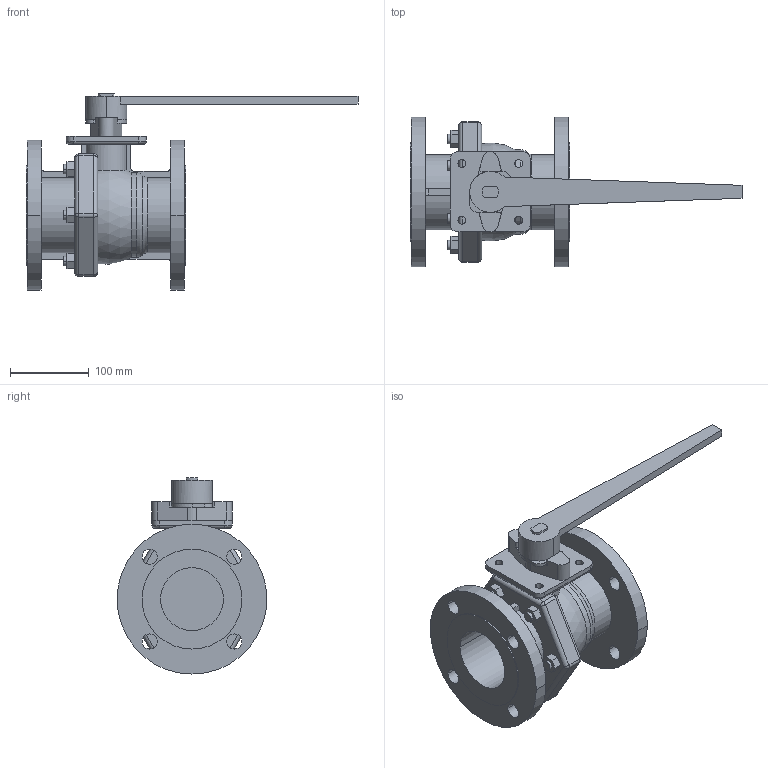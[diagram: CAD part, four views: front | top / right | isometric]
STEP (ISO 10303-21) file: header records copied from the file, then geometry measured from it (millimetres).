
FILE_DESCRIPTION( (''), '2;1');
FILE_NAME ('PC2091.16192.BLV-2SF ANSI150lb 80A_6453.stp','2026-05-28T09:09:42',(''),(''),'spGate 21.9.4 (****-****-****-****)','','');
FILE_SCHEMA (('AUTOMOTIVE_DESIGN'));
Length unit declared in the file: millimetre
Products named in the file (2): Assembly; BLV-2SFA 80A
Assembly tree (1 placements, depth 2):
  Assembly
    BLV-2SFA 80A
Bounding box: 422 x 190.5 x 249.25 mm (x, y, z)
Volume: 2316379.8 mm3; surface area: 316284.2 mm2
Topology: 1 solids, 1 shells, 242 faces, 627 edges, 392 vertices
Faces by surface type: plane 115, cylinder 104, sphere 15, bspline 8
Entity records: 12586 total; most frequent: CARTESIAN_POINT 1629, DIRECTION 1271, ORIENTED_EDGE 1230, COLOUR_RGB 858, PRESENTATION_STYLE_ASSIGNMENT 858, STYLED_ITEM 858, EDGE_CURVE 615, DRAUGHTING_PRE_DEFINED_CURVE_FONT 615
